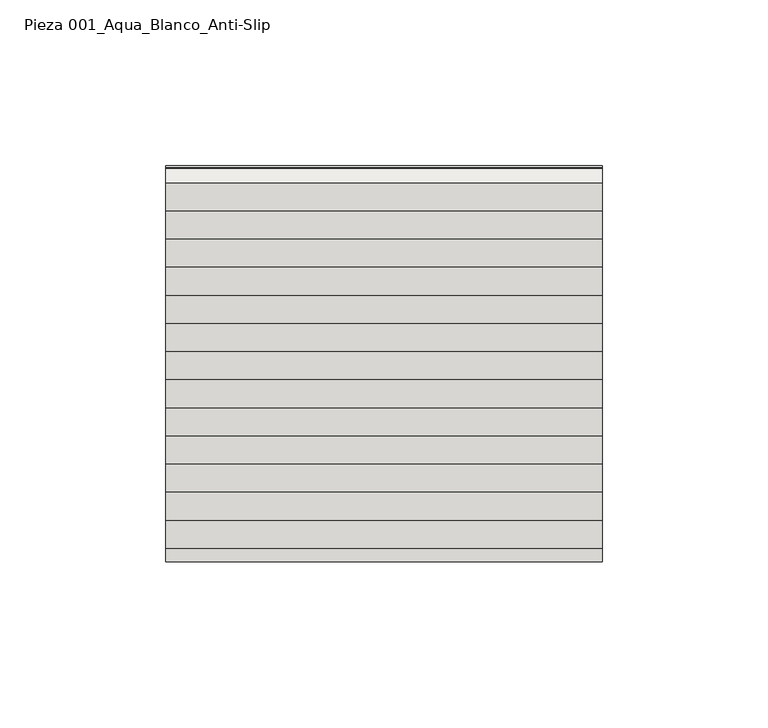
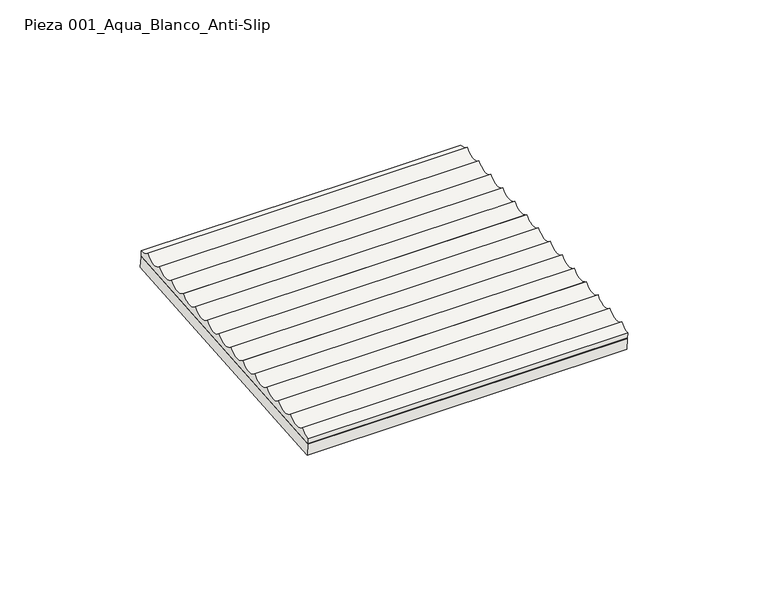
"""IFC4 building model written with IfcOpenShell, lengths in millimetres: slab geometry, ROSA GRES_001 (1 fila) : Pieza 001_Aqua_Blanco_Anti-Slip."""

from ifc_helpers import new_model, si_unit, point, frame, frame_2d, origin, place, context, project, spatial, polyline, circle_curve, trimmed, segment, composite_curve, outline, extrude, source, transform, mapped, element, save


def pieza_001_aqua_blanco_anti_slip_8ac1aa7c(model_context):
    return source(origin(), model_context, "Body", "SweptSolid", [
        extrude(outline(polyline([(59.4997999, 0.0), (-59.4998, 0.0), (-59.4998, 131.3502643), (59.4997999, 131.3502643), (59.4997999, 0.0)])), frame((131.3502643, 179.3036749, 204.5238637), z_axis=(0.0, -0.0811270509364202, 0.9967037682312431), x_axis=(0.0, 0.9967037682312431, 0.0811270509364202)), (0.0, 0.0, 1.0), 5.0),
        extrude(outline(composite_curve([segment(polyline([(238.2017145, 214.3344258), (119.5943647, 204.6803392), (119.3811655, 207.2996439)]), True, "CONTINUOUS"), segment(trimmed(circle_curve(frame_2d((118.9275622, 212.8724843)), 5.5912705), [point((119.3811655, 207.2996439))], [point((123.4582874, 209.5960785))], True, "CARTESIAN"), True, "CONTINUOUS"), segment(trimmed(circle_curve(frame_2d((127.3995158, 213.5620619)), 5.5912705), [point((123.4582874, 209.5960785))], [point((131.930241, 210.2856561))], True, "CARTESIAN"), True, "CONTINUOUS"), segment(trimmed(circle_curve(frame_2d((135.8714693, 214.2516395)), 5.5912705), [point((131.930241, 210.2856561))], [point((140.4021945, 210.9752337))], True, "CARTESIAN"), True, "CONTINUOUS"), segment(trimmed(circle_curve(frame_2d((144.3434229, 214.9412171)), 5.5912705), [point((140.4021945, 210.9752337))], [point((148.8741481, 211.6648113))], True, "CARTESIAN"), True, "CONTINUOUS"), segment(trimmed(circle_curve(frame_2d((152.8153765, 215.6307947)), 5.5912705), [point((148.8741481, 211.6648113))], [point((157.3461016, 212.3543889))], True, "CARTESIAN"), True, "CONTINUOUS"), segment(trimmed(circle_curve(frame_2d((161.28733, 216.3203723)), 5.5912705), [point((157.3461016, 212.3543889))], [point((165.8180552, 213.0439666))], True, "CARTESIAN"), True, "CONTINUOUS"), segment(trimmed(circle_curve(frame_2d((169.7592836, 217.00995)), 5.5912705), [point((165.8180552, 213.0439666))], [point((174.2900087, 213.7335442))], True, "CARTESIAN"), True, "CONTINUOUS"), segment(trimmed(circle_curve(frame_2d((178.2312371, 217.6995276)), 5.5912705), [point((174.2900087, 213.7335442))], [point((182.7619623, 214.4231218))], True, "CARTESIAN"), True, "CONTINUOUS"), segment(trimmed(circle_curve(frame_2d((186.7031907, 218.3891052)), 5.5912705), [point((182.7619623, 214.4231218))], [point((191.2339158, 215.1126994))], True, "CARTESIAN"), True, "CONTINUOUS"), segment(trimmed(circle_curve(frame_2d((195.1751442, 219.0786828)), 5.5912705), [point((191.2339158, 215.1126994))], [point((199.7058694, 215.802277))], True, "CARTESIAN"), True, "CONTINUOUS"), segment(trimmed(circle_curve(frame_2d((203.6470978, 219.7682604)), 5.5912705), [point((199.7058694, 215.802277))], [point((208.1778229, 216.4918546))], True, "CARTESIAN"), True, "CONTINUOUS"), segment(trimmed(circle_curve(frame_2d((212.1190513, 220.457838)), 5.5912705), [point((208.1778229, 216.4918546))], [point((216.6497765, 217.1814322))], True, "CARTESIAN"), True, "CONTINUOUS"), segment(trimmed(circle_curve(frame_2d((220.5910049, 221.1474157)), 5.5912705), [point((216.6497765, 217.1814322))], [point((225.12173, 217.8710099))], True, "CARTESIAN"), True, "CONTINUOUS"), segment(trimmed(circle_curve(frame_2d((229.0629584, 221.8369933)), 5.5912705), [point((225.12173, 217.8710099))], [point((233.5936836, 218.5605875))], True, "CARTESIAN"), True, "CONTINUOUS"), segment(trimmed(circle_curve(frame_2d((237.534912, 222.5265709)), 5.5912705), [point((233.5936836, 218.5605875))], [point((237.9885153, 216.9537305))], True, "CARTESIAN"), True, "CONTINUOUS"), segment(polyline([(237.9885153, 216.9537305), (238.2017145, 214.3344258)]), True, "CONTINUOUS")], self_intersect=False)), frame((0.0, 0.0, 0.0), z_axis=(1.0, 0.0, 0.0), x_axis=(0.0, 1.0, 0.0)), (0.0, 0.0, 1.0), 131.3502643),
    ])


if __name__ == "__main__":
    model = new_model("IFC4")
    model_context = context("Model", 3, world=origin())
    ifc_project = project(units=[si_unit("LENGTHUNIT", "METRE", prefix="MILLI")], contexts=[model_context])
    site = spatial("IfcSite", under=ifc_project)
    building = spatial("IfcBuilding", under=site)
    placement = place(None, origin())
    pieza_001_aqua_blanco_anti_slip_shape = pieza_001_aqua_blanco_anti_slip_8ac1aa7c(model_context)
    element("IfcSlab", 1, ObjectType="ROSA GRES_001 (1 fila) : Pieza 001_Aqua_Blanco_Anti-Slip", at=placement, inside=building, context=model_context, shape_type="MappedRepresentation", body=[
        mapped(pieza_001_aqua_blanco_anti_slip_shape, transform((0.0, 0.0, 0.0), x_axis=(1.0, 0.0, 0.0), y_axis=(0.0, 1.0, 0.0), z_axis=(0.0, 0.0, 1.0))),
    ])
    save(model, "model.ifc")
